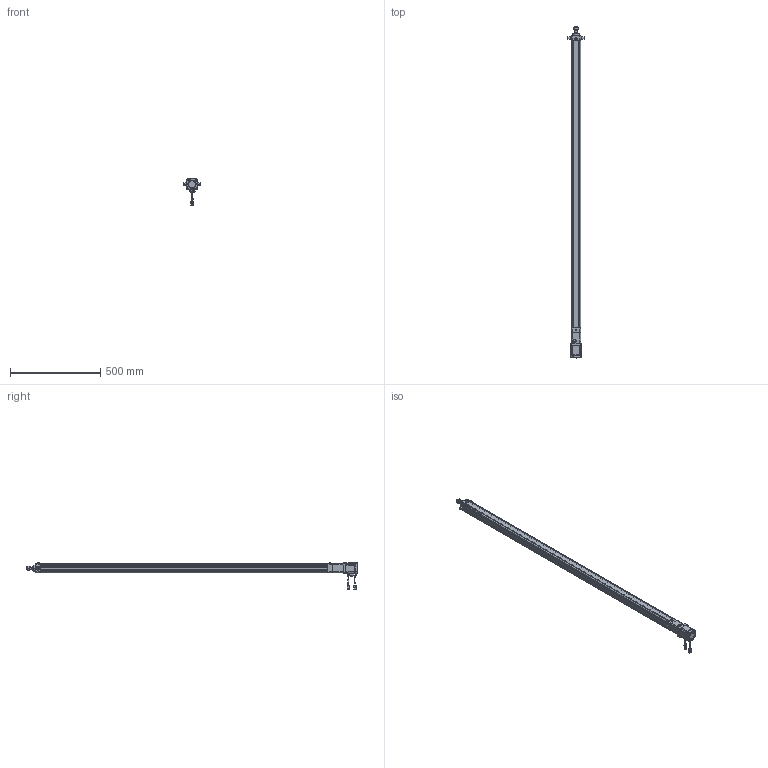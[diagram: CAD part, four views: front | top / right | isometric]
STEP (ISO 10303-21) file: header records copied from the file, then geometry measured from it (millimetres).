
FILE_DESCRIPTION((''),'2;1');
FILE_NAME('HE40-D-100_ASM','2020-05-25T',('ASUS20200'),(''),'CREO PARAMETRIC BY PTC INC, 2014190','CREO PARAMETRIC BY PTC INC, 2014190','');
FILE_SCHEMA(('CONFIG_CONTROL_DESIGN'));
Length unit declared in the file: millimetre
Products named in the file (26): HE40-D-P-001-X1; HE40-D-P-002-X1; HE40-D-P-003-X1; 6200ZZ; HE40-D-009-X1; HE40-D-010-X1; _MHMF022L1A2; _CABLE_MOTOR_BOTTOM_03; _CABLE_MOTOR_TOP_03; _MOTOR_CONNECTOR_2; _CABLE_BRAKE_BOTTOM_03; _CABLE_BRAKE_TOP_03; _MHMF_CONNECTOR_9_PIN_A6; MHMF022L1A2M2_1_ASM; MHMF022L1A2M2_ASM; SLM-01; YZ-M6X1; JDB202820; SKT-13; JX5X5X20; HE40-TC; HE40-D-P-005-X1; HE40-D-P-004-X1; HE40-D-P-008-X1; LGLM-M6-22; HE40-D-100_ASM
Assembly tree (29 placements, depth 4):
  HE40-D-100_ASM
    HE40-D-P-001-X1
    HE40-D-P-002-X1
    HE40-D-P-003-X1
    6200ZZ
    HE40-D-009-X1
    HE40-D-010-X1
    MHMF022L1A2M2_ASM
      MHMF022L1A2M2_1_ASM
        _MHMF022L1A2
        _CABLE_MOTOR_BOTTOM_03
        _CABLE_MOTOR_TOP_03
        _MOTOR_CONNECTOR_2
        _CABLE_BRAKE_BOTTOM_03
        _CABLE_BRAKE_TOP_03
        _MHMF_CONNECTOR_9_PIN_A6
    SLM-01
    YZ-M6X1
    JDB202820
    SKT-13
    JX5X5X20
    HE40-TC  x2
    HE40-D-P-005-X1
    HE40-D-P-004-X1
    HE40-D-P-008-X1
    LGLM-M6-22  x4
Bounding box: 91 x 1838.5 x 152.7 mm (x, y, z)
Volume: 2135299.8 mm3; surface area: 899437.4 mm2
Topology: 27 solids, 54 shells, 2087 faces, 5107 edges, 3191 vertices
Faces by surface type: plane 850, cylinder 653, cone 458, torus 86, sphere 36, bspline 4
Entity records: 59443 total; most frequent: CARTESIAN_POINT 11395, DIRECTION 10600, ORIENTED_EDGE 9414, EDGE_CURVE 4761, AXIS2_PLACEMENT_3D 3993, VERTEX_POINT 3009, VECTOR 2614, LINE 2614
